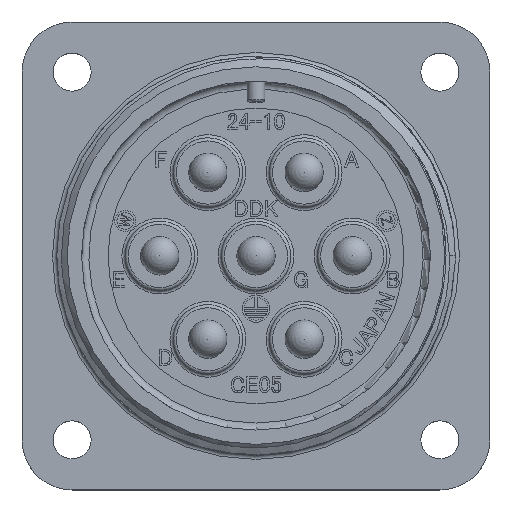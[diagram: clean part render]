
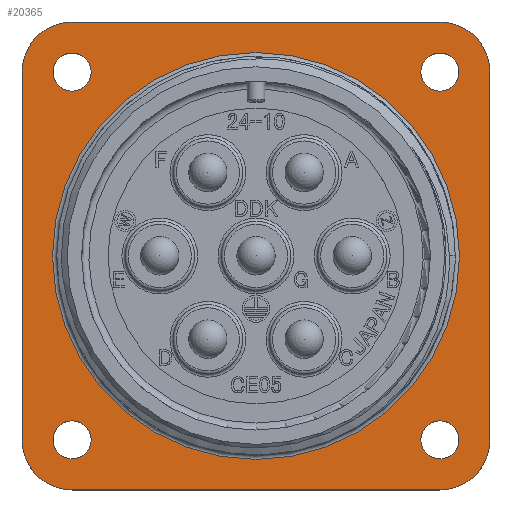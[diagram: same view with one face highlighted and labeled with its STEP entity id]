
A CAD part, top view. The second image highlights one B-rep face of the part: STEP entity #20365.
In plain terms, the highlighted planar face has unit normal (0, 0, 1).
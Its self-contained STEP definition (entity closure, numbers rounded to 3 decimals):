
#670 = VERTEX_POINT ( 'NONE', #33586 ) ;
#1203 = DIRECTION ( 'NONE',  ( 0., 0., -1. ) ) ;
#1500 = VERTEX_POINT ( 'NONE', #4587 ) ;
#1553 = PLANE ( 'NONE',  #25455 ) ;
#1756 = CARTESIAN_POINT ( 'NONE',  ( 0., 0., -20.8 ) ) ;
#2952 = AXIS2_PLACEMENT_3D ( 'NONE', #6807, #37673, #20347 ) ;
#3656 = EDGE_CURVE ( 'NONE', #39775, #1500, #7288, .T. ) ;
#3805 = CARTESIAN_POINT ( 'NONE',  ( -17.465, -17.465, -20.8 ) ) ;
#4587 = CARTESIAN_POINT ( 'NONE',  ( 17.465, -22.225, -20.8 ) ) ;
#5005 = CIRCLE ( 'NONE', #41088, 4.76 ) ;
#5062 = DIRECTION ( 'NONE',  ( 0., 0., -1. ) ) ;
#5258 = DIRECTION ( 'NONE',  ( 0., 0., -1. ) ) ;
#5937 = AXIS2_PLACEMENT_3D ( 'NONE', #43384, #5258, #29555 ) ;
#6387 = CARTESIAN_POINT ( 'NONE',  ( 17.465, 22.225, -20.8 ) ) ;
#6455 = CIRCLE ( 'NONE', #32143, 1.805 ) ;
#6807 = CARTESIAN_POINT ( 'NONE',  ( -17.465, 17.465, -20.8 ) ) ;
#6991 = CIRCLE ( 'NONE', #28431, 1.805 ) ;
#7288 = CIRCLE ( 'NONE', #5937, 4.76 ) ;
#7673 = EDGE_CURVE ( 'NONE', #42791, #670, #23683, .T. ) ;
#8452 = LINE ( 'NONE', #6387, #39953 ) ;
#8486 = CARTESIAN_POINT ( 'NONE',  ( -15.66, -17.465, -20.8 ) ) ;
#8661 = EDGE_LOOP ( 'NONE', ( #27261 ) ) ;
#8980 = EDGE_LOOP ( 'NONE', ( #20745, #34449, #17478, #41018, #20092, #12079, #9110, #15019 ) ) ;
#8983 = CARTESIAN_POINT ( 'NONE',  ( 17.465, 17.465, -20.8 ) ) ;
#9110 = ORIENTED_EDGE ( 'NONE', *, *, #30880, .F. ) ;
#9312 = CARTESIAN_POINT ( 'NONE',  ( 17.465, -22.225, -20.8 ) ) ;
#9853 = LINE ( 'NONE', #17548, #15802 ) ;
#10532 = VERTEX_POINT ( 'NONE', #18043 ) ;
#10836 = EDGE_CURVE ( 'NONE', #1500, #34221, #11027, .T. ) ;
#10888 = EDGE_LOOP ( 'NONE', ( #28769 ) ) ;
#11027 = LINE ( 'NONE', #9312, #14821 ) ;
#11037 = AXIS2_PLACEMENT_3D ( 'NONE', #39176, #1203, #14874 ) ;
#11618 = DIRECTION ( 'NONE',  ( -1., 0., 0. ) ) ;
#12079 = ORIENTED_EDGE ( 'NONE', *, *, #43164, .F. ) ;
#12528 = FACE_BOUND ( 'NONE', #8661, .T. ) ;
#12646 = DIRECTION ( 'NONE',  ( 0., -1., 0. ) ) ;
#14821 = VECTOR ( 'NONE', #16280, 1000. ) ;
#14874 = DIRECTION ( 'NONE',  ( -1., 0., 0. ) ) ;
#15019 = ORIENTED_EDGE ( 'NONE', *, *, #10836, .F. ) ;
#15494 = EDGE_CURVE ( 'NONE', #23664, #23664, #20919, .T. ) ;
#15527 = DIRECTION ( 'NONE',  ( 0., 0., -1. ) ) ;
#15802 = VECTOR ( 'NONE', #35321, 1000. ) ;
#15900 = EDGE_CURVE ( 'NONE', #29050, #29050, #30151, .T. ) ;
#16231 = CARTESIAN_POINT ( 'NONE',  ( -22.225, 17.465, -20.8 ) ) ;
#16280 = DIRECTION ( 'NONE',  ( -1., 0., 0. ) ) ;
#16436 = CARTESIAN_POINT ( 'NONE',  ( -22.225, 17.465, -20.8 ) ) ;
#16630 = LINE ( 'NONE', #16231, #21523 ) ;
#17478 = ORIENTED_EDGE ( 'NONE', *, *, #34082, .F. ) ;
#17548 = CARTESIAN_POINT ( 'NONE',  ( 22.225, 17.465, -20.8 ) ) ;
#18043 = CARTESIAN_POINT ( 'NONE',  ( 19.27, 17.465, -20.8 ) ) ;
#19085 = DIRECTION ( 'NONE',  ( 0., 0., -1. ) ) ;
#20092 = ORIENTED_EDGE ( 'NONE', *, *, #7673, .F. ) ;
#20123 = ORIENTED_EDGE ( 'NONE', *, *, #30042, .T. ) ;
#20135 = EDGE_CURVE ( 'NONE', #40849, #39775, #9853, .T. ) ;
#20347 = DIRECTION ( 'NONE',  ( -1., 0., 0. ) ) ;
#20365 = ADVANCED_FACE ( 'NONE', ( #24021, #32108, #21794, #12528, #22361, #29936 ), #1553, .F. ) ;
#20378 = VERTEX_POINT ( 'NONE', #30136 ) ;
#20381 = DIRECTION ( 'NONE',  ( 0., 0., -1. ) ) ;
#20745 = ORIENTED_EDGE ( 'NONE', *, *, #3656, .F. ) ;
#20919 = CIRCLE ( 'NONE', #11037, 1.805 ) ;
#20985 = CARTESIAN_POINT ( 'NONE',  ( -17.465, -22.225, -20.8 ) ) ;
#21523 = VECTOR ( 'NONE', #26449, 1000. ) ;
#21586 = CARTESIAN_POINT ( 'NONE',  ( 22.225, 17.465, -20.8 ) ) ;
#21724 = AXIS2_PLACEMENT_3D ( 'NONE', #36166, #39648, #22355 ) ;
#21794 = FACE_BOUND ( 'NONE', #30945, .T. ) ;
#22355 = DIRECTION ( 'NONE',  ( 1., 0., 0. ) ) ;
#22361 = FACE_BOUND ( 'NONE', #29617, .T. ) ;
#22880 = EDGE_CURVE ( 'NONE', #10532, #10532, #6455, .T. ) ;
#23664 = VERTEX_POINT ( 'NONE', #42798 ) ;
#23683 = CIRCLE ( 'NONE', #21724, 4.76 ) ;
#24021 = FACE_OUTER_BOUND ( 'NONE', #8980, .T. ) ;
#24207 = DIRECTION ( 'NONE',  ( -1., 0., 0. ) ) ;
#25455 = AXIS2_PLACEMENT_3D ( 'NONE', #25917, #5062, #12646 ) ;
#25715 = DIRECTION ( 'NONE',  ( 1., 0., 0. ) ) ;
#25772 = VERTEX_POINT ( 'NONE', #8486 ) ;
#25917 = CARTESIAN_POINT ( 'NONE',  ( 17.465, -17.465, -20.8 ) ) ;
#26449 = DIRECTION ( 'NONE',  ( 0., 1., 0. ) ) ;
#27261 = ORIENTED_EDGE ( 'NONE', *, *, #22880, .T. ) ;
#27372 = CIRCLE ( 'NONE', #44559, 19.325 ) ;
#28431 = AXIS2_PLACEMENT_3D ( 'NONE', #43492, #15527, #29972 ) ;
#28769 = ORIENTED_EDGE ( 'NONE', *, *, #15494, .T. ) ;
#29050 = VERTEX_POINT ( 'NONE', #38713 ) ;
#29555 = DIRECTION ( 'NONE',  ( -1., 0., 0. ) ) ;
#29617 = EDGE_LOOP ( 'NONE', ( #44706 ) ) ;
#29936 = FACE_BOUND ( 'NONE', #10888, .T. ) ;
#29972 = DIRECTION ( 'NONE',  ( 1., 0., 0. ) ) ;
#30042 = EDGE_CURVE ( 'NONE', #36077, #36077, #27372, .T. ) ;
#30136 = CARTESIAN_POINT ( 'NONE',  ( -22.225, -17.465, -20.8 ) ) ;
#30151 = CIRCLE ( 'NONE', #2952, 1.805 ) ;
#30880 = EDGE_CURVE ( 'NONE', #34221, #20378, #5005, .T. ) ;
#30945 = EDGE_LOOP ( 'NONE', ( #40853 ) ) ;
#31827 = AXIS2_PLACEMENT_3D ( 'NONE', #44835, #20381, #24207 ) ;
#32108 = FACE_BOUND ( 'NONE', #36877, .T. ) ;
#32143 = AXIS2_PLACEMENT_3D ( 'NONE', #8983, #36167, #25715 ) ;
#32240 = CARTESIAN_POINT ( 'NONE',  ( 17.465, 22.225, -20.8 ) ) ;
#33586 = CARTESIAN_POINT ( 'NONE',  ( -17.465, 22.225, -20.8 ) ) ;
#33906 = DIRECTION ( 'NONE',  ( 1., 0., 0. ) ) ;
#34082 = EDGE_CURVE ( 'NONE', #44556, #40849, #39049, .T. ) ;
#34221 = VERTEX_POINT ( 'NONE', #20985 ) ;
#34449 = ORIENTED_EDGE ( 'NONE', *, *, #20135, .F. ) ;
#35193 = CARTESIAN_POINT ( 'NONE',  ( 22.225, -17.465, -20.8 ) ) ;
#35256 = DIRECTION ( 'NONE',  ( -1., 0., 0. ) ) ;
#35321 = DIRECTION ( 'NONE',  ( 0., -1., 0. ) ) ;
#36077 = VERTEX_POINT ( 'NONE', #39149 ) ;
#36166 = CARTESIAN_POINT ( 'NONE',  ( -17.465, 17.465, -20.8 ) ) ;
#36167 = DIRECTION ( 'NONE',  ( 0., 0., -1. ) ) ;
#36877 = EDGE_LOOP ( 'NONE', ( #20123 ) ) ;
#37673 = DIRECTION ( 'NONE',  ( 0., 0., -1. ) ) ;
#38713 = CARTESIAN_POINT ( 'NONE',  ( -19.27, 17.465, -20.8 ) ) ;
#38886 = DIRECTION ( 'NONE',  ( 0., 0., -1. ) ) ;
#39049 = CIRCLE ( 'NONE', #31827, 4.76 ) ;
#39149 = CARTESIAN_POINT ( 'NONE',  ( -19.325, 0., -20.8 ) ) ;
#39176 = CARTESIAN_POINT ( 'NONE',  ( 17.465, -17.465, -20.8 ) ) ;
#39648 = DIRECTION ( 'NONE',  ( 0., 0., -1. ) ) ;
#39775 = VERTEX_POINT ( 'NONE', #35193 ) ;
#39953 = VECTOR ( 'NONE', #33906, 1000. ) ;
#40331 = EDGE_CURVE ( 'NONE', #25772, #25772, #6991, .T. ) ;
#40849 = VERTEX_POINT ( 'NONE', #21586 ) ;
#40853 = ORIENTED_EDGE ( 'NONE', *, *, #15900, .T. ) ;
#41018 = ORIENTED_EDGE ( 'NONE', *, *, #44989, .F. ) ;
#41088 = AXIS2_PLACEMENT_3D ( 'NONE', #3805, #38886, #35256 ) ;
#42791 = VERTEX_POINT ( 'NONE', #16436 ) ;
#42798 = CARTESIAN_POINT ( 'NONE',  ( 15.66, -17.465, -20.8 ) ) ;
#43164 = EDGE_CURVE ( 'NONE', #20378, #42791, #16630, .T. ) ;
#43384 = CARTESIAN_POINT ( 'NONE',  ( 17.465, -17.465, -20.8 ) ) ;
#43492 = CARTESIAN_POINT ( 'NONE',  ( -17.465, -17.465, -20.8 ) ) ;
#44556 = VERTEX_POINT ( 'NONE', #32240 ) ;
#44559 = AXIS2_PLACEMENT_3D ( 'NONE', #1756, #19085, #11618 ) ;
#44706 = ORIENTED_EDGE ( 'NONE', *, *, #40331, .T. ) ;
#44835 = CARTESIAN_POINT ( 'NONE',  ( 17.465, 17.465, -20.8 ) ) ;
#44989 = EDGE_CURVE ( 'NONE', #670, #44556, #8452, .T. ) ;
